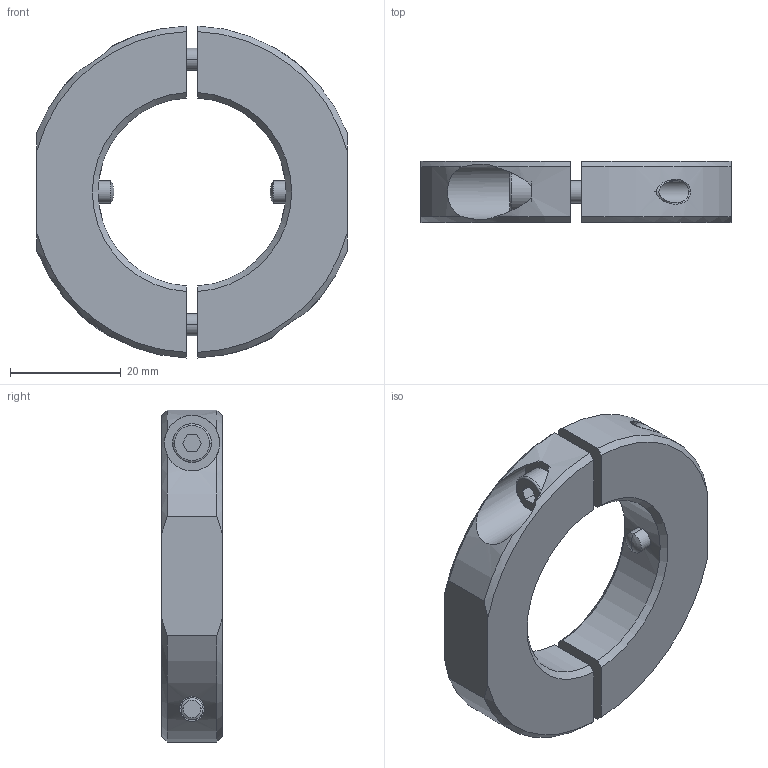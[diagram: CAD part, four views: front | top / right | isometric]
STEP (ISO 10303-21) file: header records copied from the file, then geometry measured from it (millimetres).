
FILE_DESCRIPTION((''),'2;1');
FILE_NAME('6153965515_ASM','2008-07-21T',('sdanet'),(''),'PRO/ENGINEER BY PARAMETRIC TECHNOLOGY CORPORATION, 2008010','PRO/ENGINEER BY PARAMETRIC TECHNOLOGY CORPORATION, 2008010','');
FILE_SCHEMA(('AUTOMOTIVE_DESIGN_CC2 { 1 2 10303 214 -1 1 5 2 }'));
Length unit declared in the file: millimetre
Products named in the file (4): 6155954480; 6156160310; 6157901260; 6153965515_ASM
Assembly tree (6 placements, depth 2):
  6153965515_ASM
    6155954480  x2
    6156160310  x2
    6157901260  x2
Bounding box: 56 x 11 x 59.97 mm (x, y, z)
Volume: 18234.3 mm3; surface area: 9816.6 mm2
Topology: 6 solids, 8 shells, 110 faces, 262 edges, 164 vertices
Faces by surface type: cylinder 38, plane 36, cone 28, torus 4, sphere 4
Entity records: 2062 total; most frequent: CARTESIAN_POINT 506, DIRECTION 289, ORIENTED_EDGE 250, EDGE_CURVE 127, AXIS2_PLACEMENT_3D 118, VERTEX_POINT 82, EDGE_LOOP 63, FACE_OUTER_BOUND 55
